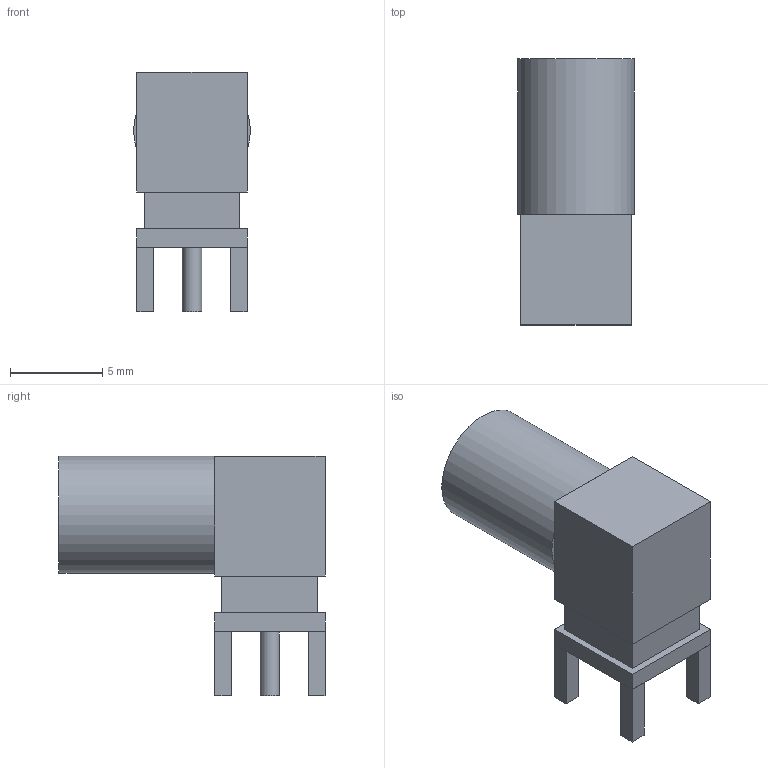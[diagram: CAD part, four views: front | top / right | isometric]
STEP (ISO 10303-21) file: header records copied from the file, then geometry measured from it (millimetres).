
FILE_DESCRIPTION(('Open CASCADE Model'),'2;1');
FILE_NAME('Open CASCADE Shape Model','2026-10-10T23:39:39',('Author'),( 'Open CASCADE'),'Open CASCADE STEP processor 7.9','Open CASCADE 7.9' ,'Unknown');
FILE_SCHEMA(('AUTOMOTIVE_DESIGN { 1 0 10303 214 1 1 1 1 }'));
Length unit declared in the file: millimetre
Products named in the file (13): SMA_KLS1_SMA002_B_Approx; representative_brass_elbow_body; ground_base; representative_neck; ground_leg_1; ground_leg_2; ground_leg_3; ground_leg_4; base_insulator; rf_leg; coax_thread_envelope; coax_insulator; female_center_contact
Assembly tree (12 placements, depth 2):
  SMA_KLS1_SMA002_B_Approx
    representative_brass_elbow_body
    ground_base
    representative_neck
    ground_leg_1
    ground_leg_2
    ground_leg_3
    ground_leg_4
    base_insulator
    rf_leg
    coax_thread_envelope
    coax_insulator
    female_center_contact
Bounding box: 6.35 x 14.46 x 13 mm (x, y, z)
Volume: 599 mm3; surface area: 864.9 mm2
Topology: 12 solids, 12 shells, 63 faces, 114 edges, 76 vertices
Faces by surface type: plane 53, cylinder 10
Full cylindrical faces by diameter (mm): 0.6 x1, 1 x2, 1.05 x2, 4 x2, 4.1 x2, 6.35 x1
Entity records: 3340 total; most frequent: CARTESIAN_POINT 518, DIRECTION 510, LINE 302, VECTOR 302, ORIENTED_EDGE 228, PCURVE 228, DEFINITIONAL_REPRESENTATION 228, EDGE_CURVE 114
